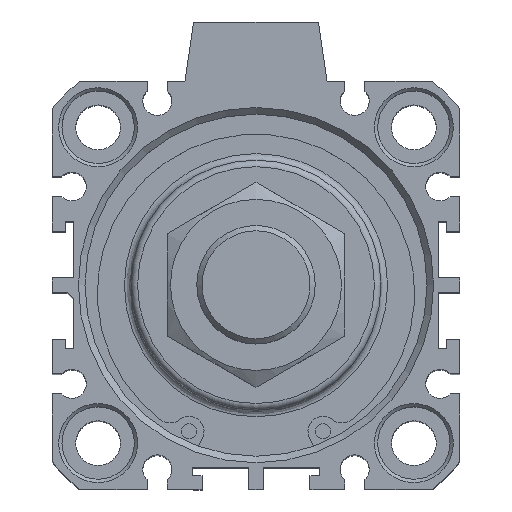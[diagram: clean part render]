
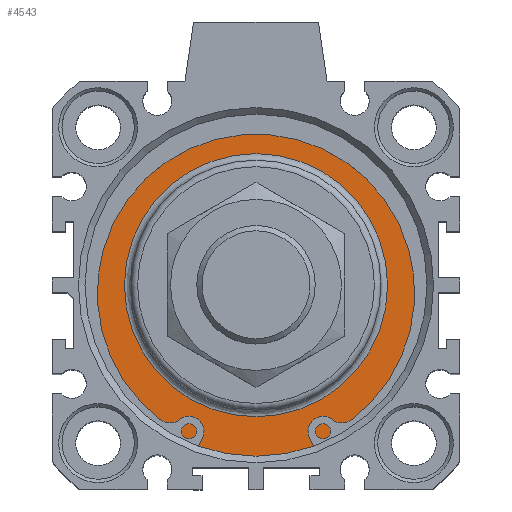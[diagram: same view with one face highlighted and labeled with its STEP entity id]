
A CAD part, top view. The second image highlights one B-rep face of the part: STEP entity #4543.
In plain terms, the highlighted planar face has unit normal (0, 0, 1).
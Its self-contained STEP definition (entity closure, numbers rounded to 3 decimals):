
#4492=CARTESIAN_POINT('',(-0.12,20.837,74.3));
#4493=VERTEX_POINT('',#4492);
#4494=CARTESIAN_POINT('',(-0.12,0.837,74.3));
#4495=DIRECTION('',(0.0,0.0,1.0));
#4496=DIRECTION('',(0.0,-1.0,0.0));
#4497=AXIS2_PLACEMENT_3D('',#4494,#4495,#4496);
#4498=CIRCLE('',#4497,20.);
#4499=EDGE_CURVE('',#4493,#4493,#4498,.T.);
#4524=CARTESIAN_POINT('',(-0.12,23.337,74.3));
#4525=DIRECTION('',(0.0,0.0,1.0));
#4526=DIRECTION('',(1.0,0.0,0.0));
#4527=AXIS2_PLACEMENT_3D('',#4524,#4525,#4526);
#4528=PLANE('',#4527);
#4529=CARTESIAN_POINT('',(-0.12,26.837,74.3));
#4530=VERTEX_POINT('',#4529);
#4531=CARTESIAN_POINT('',(-0.12,0.837,74.3));
#4532=DIRECTION('',(0.0,0.0,-1.0));
#4533=DIRECTION('',(0.0,1.0,0.0));
#4534=AXIS2_PLACEMENT_3D('',#4531,#4532,#4533);
#4535=CIRCLE('',#4534,26.);
#4536=EDGE_CURVE('',#4530,#4530,#4535,.T.);
#4537=ORIENTED_EDGE('',*,*,#4536,.F.);
#4538=EDGE_LOOP('',(#4537));
#4539=FACE_OUTER_BOUND('',#4538,.T.);
#4540=ORIENTED_EDGE('',*,*,#4499,.F.);
#4541=EDGE_LOOP('',(#4540));
#4542=FACE_BOUND('',#4541,.T.);
#4543=ADVANCED_FACE('',(#4539,#4542),#4528,.T.);
